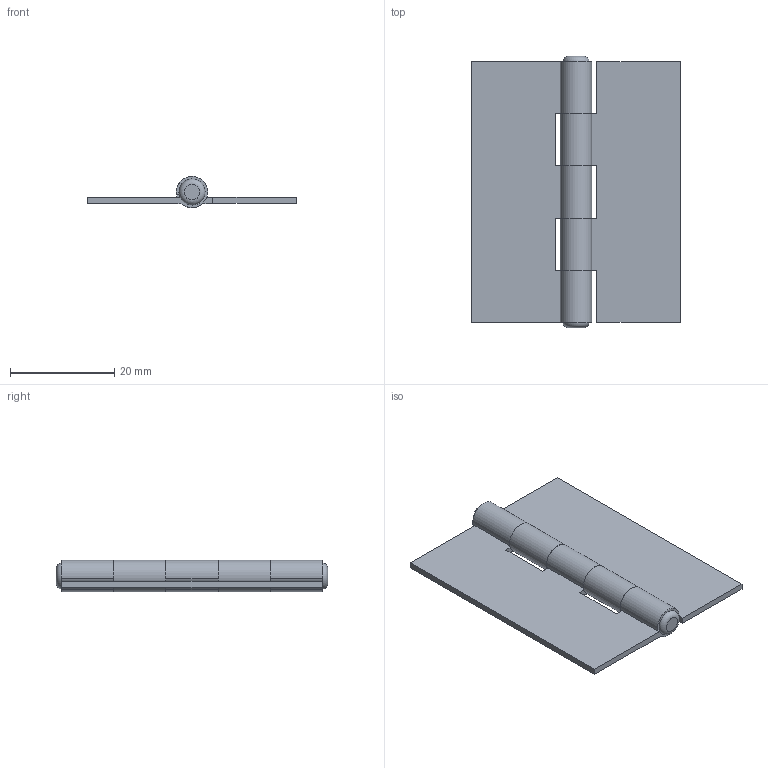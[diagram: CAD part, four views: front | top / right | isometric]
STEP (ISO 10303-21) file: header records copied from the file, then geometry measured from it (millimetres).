
FILE_DESCRIPTION(/* description */ (''),/* implementation_level */ '2;1');
FILE_NAME(/* name */ '\\NAS\db20\HHN5040-12\DR_HHN5040-12.stp',/* time_stamp */ '2018-08-11T15:31:58+09:00',/* author */ ('user'),/* organization */ (''),/* preprocessor_version */ 'ST-DEVELOPER v15.6',/* originating_system */ 'Autodesk Inventor 2015',/* authorisation */ '');
FILE_SCHEMA (('AUTOMOTIVE_DESIGN { 1 0 10303 214 3 1 1 }'));
Length unit declared in the file: millimetre
Products named in the file (3): DR_HHN5040-12-P1; DR_HHN5040-12-P2; DR_HHN5040-12
Bounding box: 40 x 52 x 5.99 mm (x, y, z)
Volume: 3418.2 mm3; surface area: 5303.4 mm2
Topology: 2 solids, 2 shells, 52 faces, 148 edges, 96 vertices
Faces by surface type: plane 32, cylinder 18, torus 2
Full cylindrical faces by diameter (mm): 3.6 x1
Entity records: 1745 total; most frequent: DIRECTION 304, CARTESIAN_POINT 293, ORIENTED_EDGE 284, EDGE_CURVE 142, AXIS2_PLACEMENT_3D 105, LINE 94, VECTOR 94, VERTEX_POINT 94
